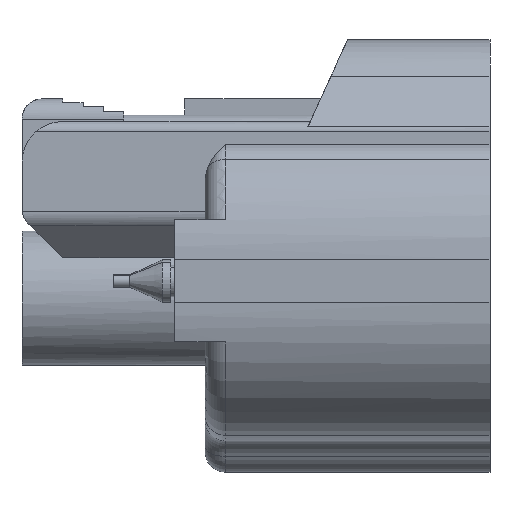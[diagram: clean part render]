
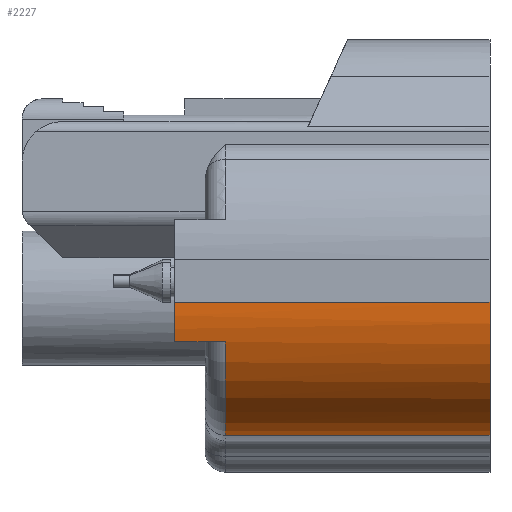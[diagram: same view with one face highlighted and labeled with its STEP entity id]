
A CAD part, front view. The second image highlights one B-rep face of the part: STEP entity #2227.
In plain terms, the highlighted cylindrical face has radius 6.6 mm (diameter 13.2 mm), a partial arc.
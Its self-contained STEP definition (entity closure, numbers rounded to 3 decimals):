
#1169=AXIS2_PLACEMENT_3D('Circle Axis2P3D',#1167,#1168,$) ;
#2079=AXIS2_PLACEMENT_3D('Circle Axis2P3D',#2077,#2078,$) ;
#2205=AXIS2_PLACEMENT_3D('Cylinder Axis2P3D',#2202,#2203,#2204) ;
#2216=AXIS2_PLACEMENT_3D('Circle Axis2P3D',#2214,#2215,$) ;
#42=CARTESIAN_POINT('Vertex',(-15.5,-7.05,0.063)) ;
#45=CARTESIAN_POINT('Line Origine',(-7.75,-7.05,0.063)) ;
#49=CARTESIAN_POINT('Vertex',(0.,-7.05,0.063)) ;
#1167=CARTESIAN_POINT('Axis2P3D Location',(0.,-0.45,0.063)) ;
#1171=CARTESIAN_POINT('Vertex',(0.,-1.263,-6.486)) ;
#2074=CARTESIAN_POINT('Vertex',(-15.5,-6.751,-1.9)) ;
#2077=CARTESIAN_POINT('Axis2P3D Location',(-15.5,-0.45,0.063)) ;
#2133=CARTESIAN_POINT('Vertex',(-13.,-6.751,-1.9)) ;
#2138=CARTESIAN_POINT('Line Origine',(-14.25,-6.751,-1.9)) ;
#2202=CARTESIAN_POINT('Axis2P3D Location',(-7.61,-0.45,0.063)) ;
#2207=CARTESIAN_POINT('Line Origine',(-7.61,-1.263,-6.486)) ;
#2211=CARTESIAN_POINT('Vertex',(-13.,-1.263,-6.486)) ;
#2214=CARTESIAN_POINT('Axis2P3D Location',(-13.,-0.45,0.063)) ;
#46=DIRECTION('Vector Direction',(-1.,0.,0.)) ;
#1168=DIRECTION('Axis2P3D Direction',(1.,0.,0.)) ;
#2078=DIRECTION('Axis2P3D Direction',(1.,0.,0.)) ;
#2139=DIRECTION('Vector Direction',(1.,0.,0.)) ;
#2203=DIRECTION('Axis2P3D Direction',(1.,0.,0.)) ;
#2204=DIRECTION('Axis2P3D XDirection',(0.,-1.,0.)) ;
#2208=DIRECTION('Vector Direction',(1.,0.,0.)) ;
#2215=DIRECTION('Axis2P3D Direction',(1.,0.,0.)) ;
#47=VECTOR('Line Direction',#46,1.) ;
#2140=VECTOR('Line Direction',#2139,1.) ;
#2209=VECTOR('Line Direction',#2208,1.) ;
#2220=ORIENTED_EDGE('',*,*,#2213,.F.) ;
#2221=ORIENTED_EDGE('',*,*,#1173,.F.) ;
#2222=ORIENTED_EDGE('',*,*,#51,.T.) ;
#2223=ORIENTED_EDGE('',*,*,#2081,.F.) ;
#2224=ORIENTED_EDGE('',*,*,#2142,.F.) ;
#2225=ORIENTED_EDGE('',*,*,#2218,.T.) ;
#2227=ADVANCED_FACE('\X2\FF8AFF9FFF70FF82\X0\ \X2\FF8EFF9EFF83FF9EFF68FF70\X0\',(#2226),#2206,.T.) ;
#1170=CIRCLE('generated circle',#1169,6.6) ;
#2080=CIRCLE('generated circle',#2079,6.6) ;
#2217=CIRCLE('generated circle',#2216,6.6) ;
#2206=CYLINDRICAL_SURFACE('generated cylinder',#2205,6.6) ;
#51=EDGE_CURVE('',#50,#43,#48,.T.) ;
#1173=EDGE_CURVE('',#50,#1172,#1170,.T.) ;
#2081=EDGE_CURVE('',#2075,#43,#2080,.F.) ;
#2142=EDGE_CURVE('',#2134,#2075,#2141,.F.) ;
#2213=EDGE_CURVE('',#1172,#2212,#2210,.F.) ;
#2218=EDGE_CURVE('',#2134,#2212,#2217,.T.) ;
#2219=EDGE_LOOP('',(#2220,#2221,#2222,#2223,#2224,#2225)) ;
#2226=FACE_OUTER_BOUND('',#2219,.T.) ;
#48=LINE('Line',#45,#47) ;
#2141=LINE('Line',#2138,#2140) ;
#2210=LINE('Line',#2207,#2209) ;
#43=VERTEX_POINT('',#42) ;
#50=VERTEX_POINT('',#49) ;
#1172=VERTEX_POINT('',#1171) ;
#2075=VERTEX_POINT('',#2074) ;
#2134=VERTEX_POINT('',#2133) ;
#2212=VERTEX_POINT('',#2211) ;
